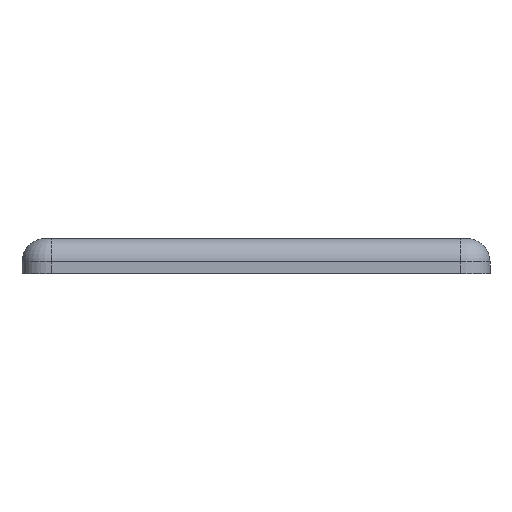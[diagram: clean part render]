
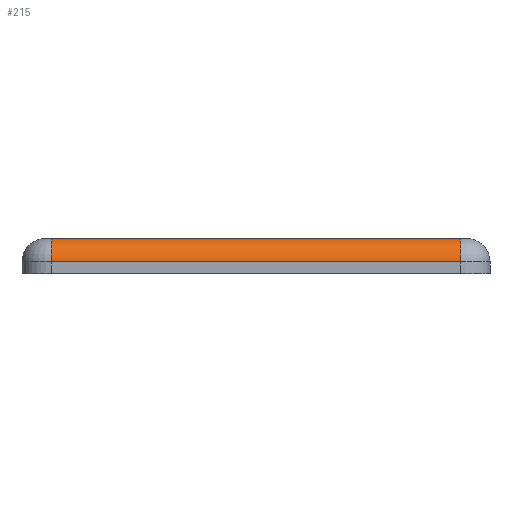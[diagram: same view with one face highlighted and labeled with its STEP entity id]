
A CAD part, left-side view. The second image highlights one B-rep face of the part: STEP entity #215.
In plain terms, the highlighted cylindrical face has radius 2 mm (diameter 4 mm), a partial arc.
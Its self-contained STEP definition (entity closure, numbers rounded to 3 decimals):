
#76 = CARTESIAN_POINT ( 'NONE',  ( -20.5, -20., 1. ) ) ;
#215 = ADVANCED_FACE ( 'NONE', ( #3494 ), #445, .T. ) ;
#445 = CYLINDRICAL_SURFACE ( 'NONE', #8246, 2. ) ;
#896 = AXIS2_PLACEMENT_3D ( 'NONE', #76, #9747, #5010 ) ;
#1063 = CIRCLE ( 'NONE', #7226, 2. ) ;
#1096 = EDGE_CURVE ( 'NONE', #7242, #2837, #7088, .T. ) ;
#1120 = VERTEX_POINT ( 'NONE', #8846 ) ;
#1275 = EDGE_CURVE ( 'NONE', #4102, #1120, #6296, .T. ) ;
#1465 = EDGE_LOOP ( 'NONE', ( #5863, #2219, #5748, #8665 ) ) ;
#1724 = CIRCLE ( 'NONE', #896, 2. ) ;
#2175 = CARTESIAN_POINT ( 'NONE',  ( -20.5, 0., 3. ) ) ;
#2219 = ORIENTED_EDGE ( 'NONE', *, *, #1096, .F. ) ;
#2333 = DIRECTION ( 'NONE',  ( 0., -1., 0. ) ) ;
#2825 = DIRECTION ( 'NONE',  ( 0., -1., 0. ) ) ;
#2837 = VERTEX_POINT ( 'NONE', #7690 ) ;
#3494 = FACE_OUTER_BOUND ( 'NONE', #1465, .T. ) ;
#4102 = VERTEX_POINT ( 'NONE', #4973 ) ;
#4245 = DIRECTION ( 'NONE',  ( 1., 0., 0. ) ) ;
#4429 = EDGE_CURVE ( 'NONE', #1120, #7242, #1724, .T. ) ;
#4973 = CARTESIAN_POINT ( 'NONE',  ( -20.5, 15., 3. ) ) ;
#5010 = DIRECTION ( 'NONE',  ( 0., 0., -1. ) ) ;
#5367 = EDGE_CURVE ( 'NONE', #4102, #2837, #1063, .T. ) ;
#5553 = CARTESIAN_POINT ( 'NONE',  ( -20.5, 15., 1. ) ) ;
#5748 = ORIENTED_EDGE ( 'NONE', *, *, #4429, .F. ) ;
#5843 = VECTOR ( 'NONE', #2333, 1000. ) ;
#5863 = ORIENTED_EDGE ( 'NONE', *, *, #5367, .T. ) ;
#6296 = LINE ( 'NONE', #2175, #5843 ) ;
#6309 = DIRECTION ( 'NONE',  ( 0., 1., 0. ) ) ;
#6337 = DIRECTION ( 'NONE',  ( 0., -1., 0. ) ) ;
#6411 = CARTESIAN_POINT ( 'NONE',  ( -22.5, -20., 1. ) ) ;
#7088 = LINE ( 'NONE', #10263, #8335 ) ;
#7226 = AXIS2_PLACEMENT_3D ( 'NONE', #5553, #6337, #8726 ) ;
#7242 = VERTEX_POINT ( 'NONE', #6411 ) ;
#7690 = CARTESIAN_POINT ( 'NONE',  ( -22.5, 15., 1. ) ) ;
#8246 = AXIS2_PLACEMENT_3D ( 'NONE', #8248, #2825, #4245 ) ;
#8248 = CARTESIAN_POINT ( 'NONE',  ( -20.5, 0., 1. ) ) ;
#8335 = VECTOR ( 'NONE', #6309, 1000. ) ;
#8665 = ORIENTED_EDGE ( 'NONE', *, *, #1275, .F. ) ;
#8726 = DIRECTION ( 'NONE',  ( 0., 0., -1. ) ) ;
#8846 = CARTESIAN_POINT ( 'NONE',  ( -20.5, -20., 3. ) ) ;
#9747 = DIRECTION ( 'NONE',  ( 0., -1., 0. ) ) ;
#10263 = CARTESIAN_POINT ( 'NONE',  ( -22.5, 17.5, 1. ) ) ;
